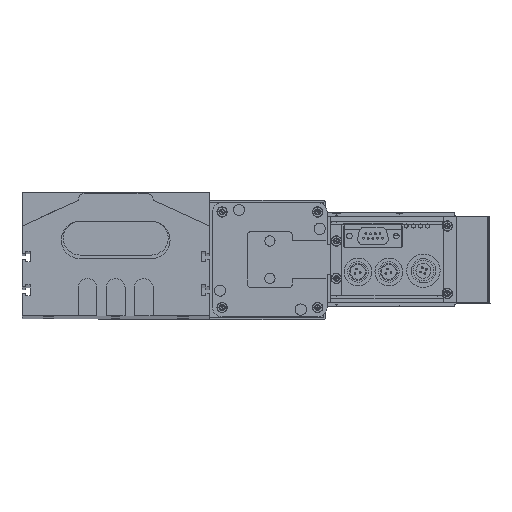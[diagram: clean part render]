
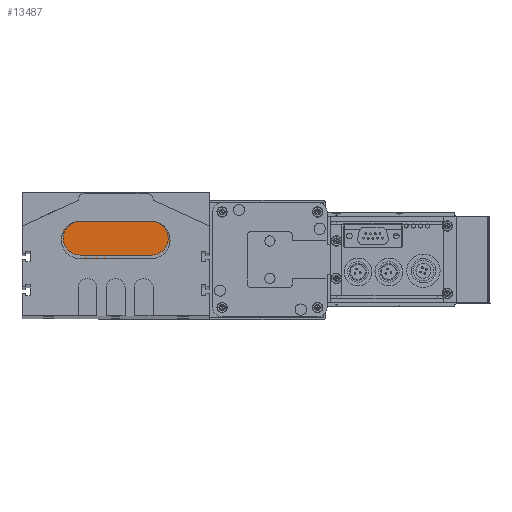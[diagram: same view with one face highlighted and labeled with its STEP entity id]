
A CAD part, top view. The second image highlights one B-rep face of the part: STEP entity #13487.
In plain terms, the highlighted planar face has unit normal (0, 0, 1).
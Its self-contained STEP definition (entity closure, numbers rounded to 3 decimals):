
#6681 = VERTEX_POINT ( 'NONE', #28072 ) ;
#6717 = EDGE_CURVE ( 'NONE', #10766, #10779, #28105, .T. ) ;
#9794 = VERTEX_POINT ( 'NONE', #28249 ) ;
#9886 = EDGE_CURVE ( 'NONE', #12252, #10766, #27703, .T. ) ;
#10766 = VERTEX_POINT ( 'NONE', #28593 ) ;
#10779 = VERTEX_POINT ( 'NONE', #28567 ) ;
#12252 = VERTEX_POINT ( 'NONE', #28816 ) ;
#12614 = EDGE_CURVE ( 'NONE', #10779, #6681, #29528, .T. ) ;
#12674 = EDGE_CURVE ( 'NONE', #9794, #12252, #29600, .T. ) ;
#12692 = ORIENTED_EDGE ( 'NONE', *, *, #9886, .T. ) ;
#12749 = ORIENTED_EDGE ( 'NONE', *, *, #12819, .T. ) ;
#12819 = EDGE_CURVE ( 'NONE', #6681, #9794, #29820, .T. ) ;
#12824 = EDGE_LOOP ( 'NONE', ( #12692, #13481, #13482, #12749, #12835 ) ) ;
#12835 = ORIENTED_EDGE ( 'NONE', *, *, #12674, .T. ) ;
#13481 = ORIENTED_EDGE ( 'NONE', *, *, #6717, .T. ) ;
#13482 = ORIENTED_EDGE ( 'NONE', *, *, #12614, .T. ) ;
#13487 = ADVANCED_FACE ( 'NONE', ( #31007 ), #31017, .T. ) ;
#27703 = CIRCLE ( 'NONE', #28227, 10. ) ;
#28072 = CARTESIAN_POINT ( 'NONE',  ( 38., 0., 10. ) ) ;
#28103 = DIRECTION ( 'NONE',  ( 1., 0., 0. ) ) ;
#28104 = AXIS2_PLACEMENT_3D ( 'NONE', #28113, #28116, #28103 ) ;
#28105 = CIRCLE ( 'NONE', #28104, 10. ) ;
#28113 = CARTESIAN_POINT ( 'NONE',  ( 0., 10., 10. ) ) ;
#28116 = DIRECTION ( 'NONE',  ( 0., 0., 1. ) ) ;
#28220 = DIRECTION ( 'NONE',  ( 1., 0., 0. ) ) ;
#28221 = DIRECTION ( 'NONE',  ( 0., 0., 1. ) ) ;
#28227 = AXIS2_PLACEMENT_3D ( 'NONE', #28248, #28221, #28220 ) ;
#28248 = CARTESIAN_POINT ( 'NONE',  ( 0., 10., 10. ) ) ;
#28249 = CARTESIAN_POINT ( 'NONE',  ( 38., 20., 10. ) ) ;
#28567 = CARTESIAN_POINT ( 'NONE',  ( 0., 0., 10. ) ) ;
#28593 = CARTESIAN_POINT ( 'NONE',  ( -10., 10., 10. ) ) ;
#28816 = CARTESIAN_POINT ( 'NONE',  ( 0., 20., 10. ) ) ;
#29524 = DIRECTION ( 'NONE',  ( 1., 0., 0. ) ) ;
#29525 = VECTOR ( 'NONE', #29524, 1000. ) ;
#29527 = CARTESIAN_POINT ( 'NONE',  ( 0., 0., 10. ) ) ;
#29528 = LINE ( 'NONE', #29527, #29525 ) ;
#29595 = DIRECTION ( 'NONE',  ( -1., 0., 0. ) ) ;
#29596 = VECTOR ( 'NONE', #29595, 1000. ) ;
#29599 = CARTESIAN_POINT ( 'NONE',  ( 0., 20., 10. ) ) ;
#29600 = LINE ( 'NONE', #29599, #29596 ) ;
#29820 = CIRCLE ( 'NONE', #29868, 10. ) ;
#29865 = DIRECTION ( 'NONE',  ( -1., 0., 0. ) ) ;
#29866 = DIRECTION ( 'NONE',  ( 0., 0., 1. ) ) ;
#29867 = CARTESIAN_POINT ( 'NONE',  ( 38., 10., 10. ) ) ;
#29868 = AXIS2_PLACEMENT_3D ( 'NONE', #29867, #29866, #29865 ) ;
#30999 = DIRECTION ( 'NONE',  ( 1., 0., 0. ) ) ;
#31000 = DIRECTION ( 'NONE',  ( 0., 0., 1. ) ) ;
#31001 = CARTESIAN_POINT ( 'NONE',  ( 0., 10., 10. ) ) ;
#31002 = AXIS2_PLACEMENT_3D ( 'NONE', #31001, #31000, #30999 ) ;
#31007 = FACE_OUTER_BOUND ( 'NONE', #12824, .T. ) ;
#31017 = PLANE ( 'NONE',  #31002 ) ;
